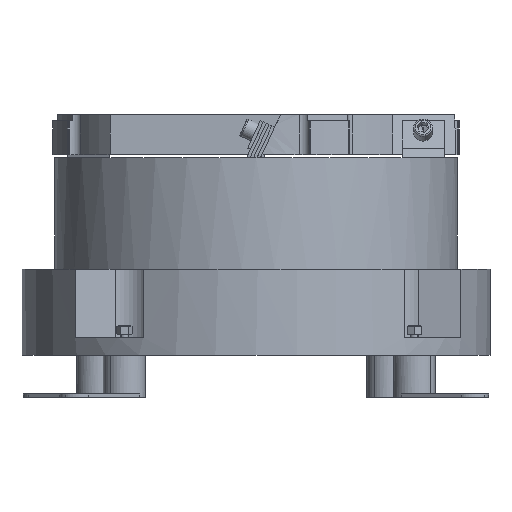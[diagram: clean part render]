
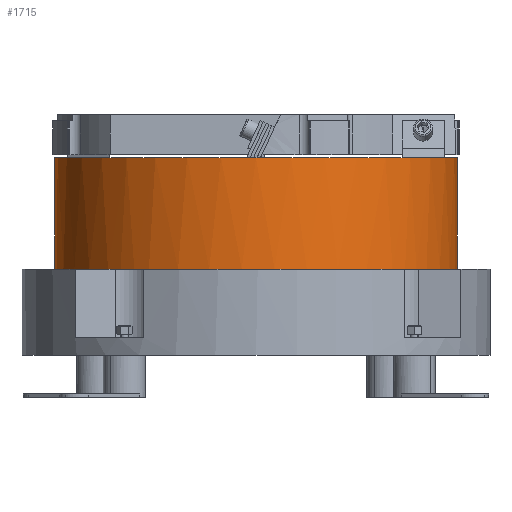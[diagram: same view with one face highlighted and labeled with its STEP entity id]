
A CAD part, front view. The second image highlights one B-rep face of the part: STEP entity #1715.
In plain terms, the highlighted cylindrical face has radius 191.5 mm (diameter 383 mm), a partial arc.
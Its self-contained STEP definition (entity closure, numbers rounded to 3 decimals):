
#1364=CYLINDRICAL_SURFACE('',#12145,191.5);
#1715=ADVANCED_FACE('NONE',(#2413),#1364,.T.);
#2413=FACE_OUTER_BOUND('',#3019,.T.);
#3019=EDGE_LOOP('',(#6138,#6139,#6140,#6141,#6142,#6143,#6144,#6145));
#3764=LINE('',#17537,#4656);
#3765=LINE('',#17549,#4657);
#4656=VECTOR('',#13804,1.);
#4657=VECTOR('',#13815,1.);
#6138=ORIENTED_EDGE('',*,*,#9933,.F.);
#6139=ORIENTED_EDGE('',*,*,#10004,.T.);
#6140=ORIENTED_EDGE('',*,*,#9939,.T.);
#6141=ORIENTED_EDGE('',*,*,#10005,.T.);
#6142=ORIENTED_EDGE('',*,*,#10006,.T.);
#6143=ORIENTED_EDGE('',*,*,#10007,.T.);
#6144=ORIENTED_EDGE('',*,*,#10008,.T.);
#6145=ORIENTED_EDGE('',*,*,#10009,.T.);
#8778=VERTEX_POINT('',#17535);
#8779=VERTEX_POINT('',#17536);
#8780=VERTEX_POINT('',#17538);
#8785=VERTEX_POINT('',#17548);
#8850=VERTEX_POINT('',#17695);
#8851=VERTEX_POINT('',#17697);
#8852=VERTEX_POINT('',#17699);
#8853=VERTEX_POINT('',#17701);
#9933=EDGE_CURVE('NONE',#8779,#8780,#3764,.T.);
#9939=EDGE_CURVE('NONE',#8778,#8785,#3765,.T.);
#10004=EDGE_CURVE('',#8779,#8778,#11358,.T.);
#10005=EDGE_CURVE('NONE',#8785,#8850,#11359,.T.);
#10006=EDGE_CURVE('NONE',#8850,#8851,#11360,.T.);
#10007=EDGE_CURVE('NONE',#8851,#8852,#11361,.T.);
#10008=EDGE_CURVE('NONE',#8852,#8853,#11362,.T.);
#10009=EDGE_CURVE('NONE',#8853,#8780,#11363,.T.);
#11358=CIRCLE('',#12139,191.5);
#11359=CIRCLE('',#12140,191.5);
#11360=CIRCLE('',#12141,191.5);
#11361=CIRCLE('',#12142,191.5);
#11362=CIRCLE('',#12143,191.5);
#11363=CIRCLE('',#12144,191.5);
#12139=AXIS2_PLACEMENT_3D('',#17693,#13942,#13943);
#12140=AXIS2_PLACEMENT_3D('',#17694,#13944,#13945);
#12141=AXIS2_PLACEMENT_3D('',#17696,#13946,#13947);
#12142=AXIS2_PLACEMENT_3D('',#17698,#13948,#13949);
#12143=AXIS2_PLACEMENT_3D('',#17700,#13950,#13951);
#12144=AXIS2_PLACEMENT_3D('',#17702,#13952,#13953);
#12145=AXIS2_PLACEMENT_3D('',#17703,#13954,#13955);
#13804=DIRECTION('',(0.,0.,-1.));
#13815=DIRECTION('',(0.,0.,-1.));
#13942=DIRECTION('',(0.,0.,-1.));
#13943=DIRECTION('',(-1.,0.,0.));
#13944=DIRECTION('',(0.,0.,1.));
#13945=DIRECTION('',(-1.,0.,0.));
#13946=DIRECTION('',(0.,0.,1.));
#13947=DIRECTION('',(-1.,0.,0.));
#13948=DIRECTION('',(0.,0.,1.));
#13949=DIRECTION('',(-1.,0.,0.));
#13950=DIRECTION('',(0.,0.,1.));
#13951=DIRECTION('',(-1.,0.,0.));
#13952=DIRECTION('',(0.,0.,1.));
#13953=DIRECTION('',(-1.,0.,0.));
#13954=DIRECTION('',(0.,0.,-1.));
#13955=DIRECTION('',(-1.,0.,0.));
#17535=CARTESIAN_POINT('',(-287.845,15.359,73.5));
#17536=CARTESIAN_POINT('',(95.155,15.359,73.5));
#17537=CARTESIAN_POINT('',(95.155,15.359,73.5));
#17538=CARTESIAN_POINT('',(95.155,15.359,-32.5));
#17548=CARTESIAN_POINT('',(-287.845,15.359,-32.5));
#17549=CARTESIAN_POINT('',(-287.845,15.359,73.5));
#17693=CARTESIAN_POINT('',(-96.345,15.359,73.5));
#17694=CARTESIAN_POINT('',(-96.345,15.359,-32.5));
#17695=CARTESIAN_POINT('',(-237.124,-114.462,-32.5));
#17696=CARTESIAN_POINT('',(-96.345,15.359,-32.5));
#17697=CARTESIAN_POINT('',(-198.167,-146.828,-32.5));
#17698=CARTESIAN_POINT('',(-96.345,15.359,-32.5));
#17699=CARTESIAN_POINT('',(33.476,-125.421,-32.5));
#17700=CARTESIAN_POINT('',(-96.345,15.359,-32.5));
#17701=CARTESIAN_POINT('',(65.842,-86.463,-32.5));
#17702=CARTESIAN_POINT('',(-96.345,15.359,-32.5));
#17703=CARTESIAN_POINT('',(-96.345,15.359,73.5));
